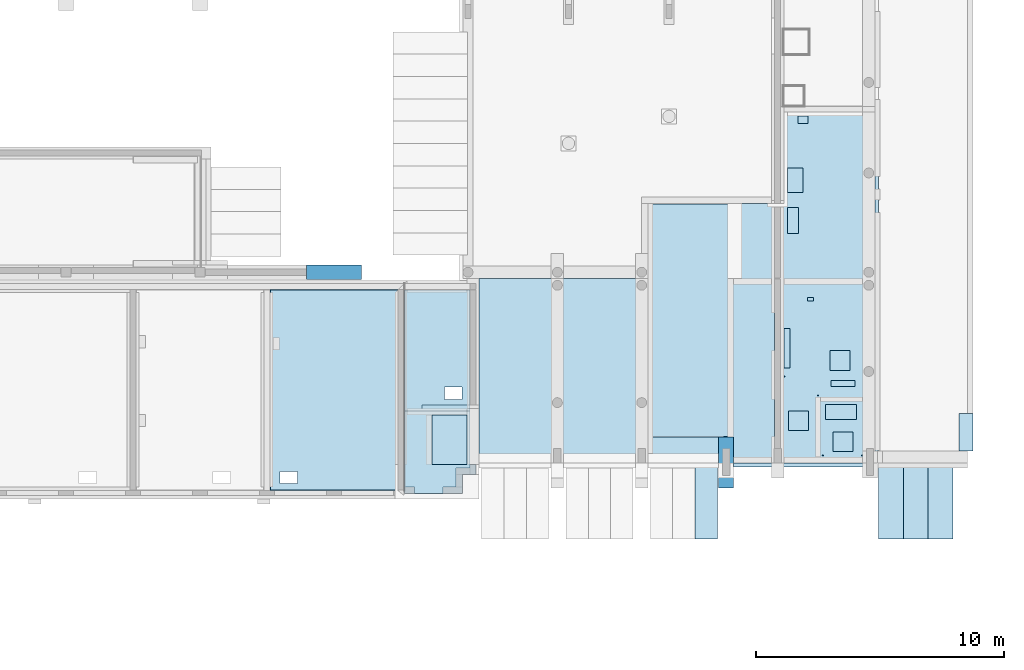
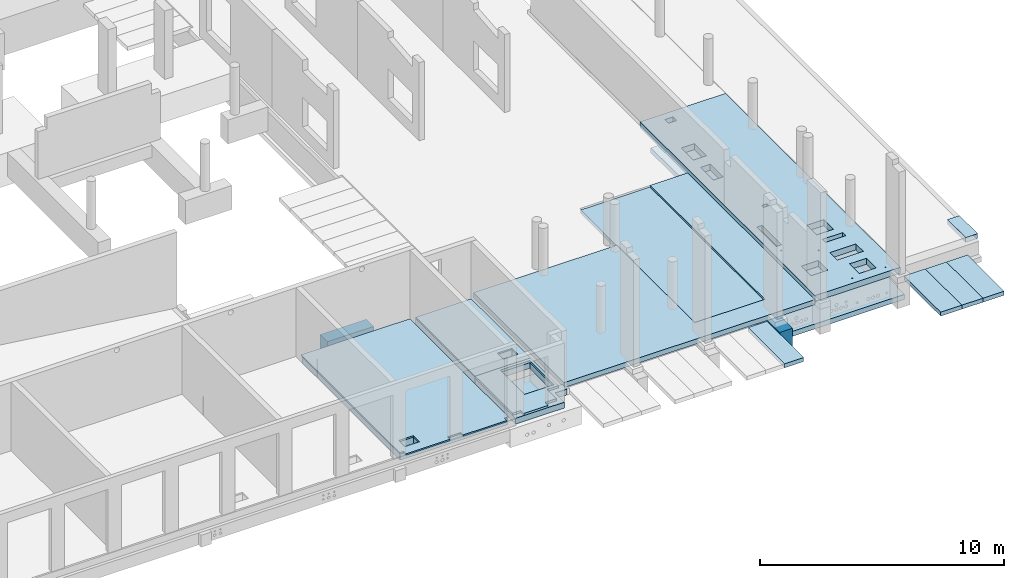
# One storey, part 29 of 60: 18 slabs, 50 openings.
"""IFC2X3 building model written with IfcOpenShell, lengths in millimetres."""

from ifc_helpers import new_model, entity, si_unit, converted_unit, derived_unit, direction, frame, frame_2d, origin, origin_2d_with_axis, place, context, subcontext, project, spatial, polyline, rectangle, circle, outline, extrude, material, layer, layer_set, layer_usage, element, save


model = new_model("IFC2X3")

# Units and contexts
model_context = context("Model", 3, precision=0.01, world=origin(), true_north=direction((6.12303176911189e-17, 1.0)))
body_context = subcontext(model_context, "Body", "Model", "MODEL_VIEW")
ifc_project = project(units=[si_unit("LENGTHUNIT", "METRE", prefix="MILLI"), si_unit("AREAUNIT", "SQUARE_METRE"), si_unit("VOLUMEUNIT", "CUBIC_METRE"), converted_unit("PLANEANGLEUNIT", "DEGREE", entity("IfcRatioMeasure", 0.0174532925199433), si_unit("PLANEANGLEUNIT", "RADIAN"), dimensions=[0, 0, 0, 0, 0, 0, 0]), si_unit("MASSUNIT", "GRAM", prefix="KILO"), derived_unit("MASSDENSITYUNIT", [(si_unit("MASSUNIT", "GRAM", prefix="KILO"), 1), (si_unit("LENGTHUNIT", "METRE"), -3)]), si_unit("TIMEUNIT", "SECOND"), si_unit("FREQUENCYUNIT", "HERTZ"), si_unit("THERMODYNAMICTEMPERATUREUNIT", "DEGREE_CELSIUS"), derived_unit("THERMALTRANSMITTANCEUNIT", [(si_unit("MASSUNIT", "GRAM", prefix="KILO"), 1), (si_unit("THERMODYNAMICTEMPERATUREUNIT", "KELVIN"), -1), (si_unit("TIMEUNIT", "SECOND"), -3)]), derived_unit("VOLUMETRICFLOWRATEUNIT", [(si_unit("LENGTHUNIT", "METRE"), 3), (si_unit("TIMEUNIT", "SECOND"), -1)]), si_unit("ELECTRICCURRENTUNIT", "AMPERE"), si_unit("ELECTRICVOLTAGEUNIT", "VOLT"), si_unit("POWERUNIT", "WATT"), si_unit("FORCEUNIT", "NEWTON", prefix="KILO"), si_unit("ILLUMINANCEUNIT", "LUX"), si_unit("LUMINOUSFLUXUNIT", "LUMEN"), si_unit("LUMINOUSINTENSITYUNIT", "CANDELA"), derived_unit("USERDEFINED", [(si_unit("MASSUNIT", "GRAM", prefix="KILO"), -1), (si_unit("LENGTHUNIT", "METRE"), -2), (si_unit("TIMEUNIT", "SECOND"), 3), (si_unit("LUMINOUSFLUXUNIT", "LUMEN"), 1)]), derived_unit("LINEARVELOCITYUNIT", [(si_unit("LENGTHUNIT", "METRE"), 1), (si_unit("TIMEUNIT", "SECOND"), -1)]), si_unit("PRESSUREUNIT", "PASCAL"), derived_unit("USERDEFINED", [(si_unit("LENGTHUNIT", "METRE"), -2), (si_unit("MASSUNIT", "GRAM", prefix="KILO"), 1), (si_unit("TIMEUNIT", "SECOND"), -2)])], contexts=[model_context])

# Site, building, storey
site_placement = place(None, origin())
site = spatial("IfcSite", under=ifc_project, at=site_placement, Name="Default", CompositionType="ELEMENT")
building_placement = place(site_placement, origin())
building = spatial("IfcBuilding", under=site, at=building_placement, Name="niet gebruiken", CompositionType="ELEMENT")
storey_placement = place(building_placement, origin())
storey = spatial("IfcBuildingStorey", under=building, at=storey_placement, Name="00 begane grond", CompositionType="ELEMENT", Elevation=0.0)

# Slab, openings
ifc_material_1 = material(Name="NLRS_f2_beton ihwg")
ifc_layer_1 = layer(ifc_material_1, 70.0)
ifc_layer_set_1 = layer_set([ifc_layer_1], Name="Floor:NLRS_23.21_FL_druklaag d=70_gen")
ifc_layer_usage_1 = layer_usage(ifc_layer_set_1, "AXIS3", "POSITIVE", 0.0)
slab_1_placement = place(storey_placement, frame((2800.0, 200.0, -160.0)))
slab_1 = element("IfcSlab", 1, at=slab_1_placement, inside=storey, material=ifc_layer_usage_1, Name="Floor:NLRS_23.21_FL_druklaag d=70_gen:2", ObjectType="Floor:NLRS_23.21_FL_druklaag d=70_gen", PredefinedType="FLOOR", context=body_context, shape_type="SweptSolid", body=[
    extrude(outline(polyline([(-41887.4999999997, 4148.0), (-47037.4999999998, 4148.0), (-47037.4999999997, -3948.0), (-46852.4999999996, -3948.0), (-46852.4999999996, -4148.0), (-44772.4999999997, -4148.0), (-44772.4999999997, -3948.0), (-44152.4999999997, -3948.0), (-44152.4999999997, -4148.0), (-42072.4999999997, -4148.0), (-42072.4999999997, -3948.0), (-41887.4999999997, -3948.0), (-41887.4999999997, 4148.0)])), frame((49937.5, 4148.0, 70.0), z_axis=(0.0, 0.0, -1.0), x_axis=(-1.0, 0.0, 0.0)), (0.0, 0.0, 1.0), 70.0),
])
placement_1 = place(storey_placement, frame((2800.0, 200.0, -160.0)))
placement_2 = place(placement_1, origin())
element("IfcOpeningElement", 2, at=placement_2, cuts=slab_1, ObjectType="Opening", context=body_context, shape_type="SweptSolid", body=[
    extrude(rectangle(XDim=699.999999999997, YDim=500.000000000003, at=origin_2d_with_axis()), frame((89870.0, 725.0, -380.0), z_axis=(0.0, 0.0, 1.0), x_axis=(-1.0, 0.0, 0.0)), (0.0, 0.0, 1.0), 450.0),
])
placement_3 = place(placement_1, origin())
element("IfcOpeningElement", 3, at=placement_3, cuts=slab_1, ObjectType="Opening", context=body_context, shape_type="SweptSolid", body=[
    extrude(rectangle(XDim=699.999999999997, YDim=500.000000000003, at=origin_2d_with_axis()), frame((92570.0, 725.0, -380.0), z_axis=(0.0, 0.0, 1.0), x_axis=(-1.0, 0.0, 0.0)), (0.0, 0.0, 1.0), 450.0),
])
placement_4 = place(placement_1, origin())
element("IfcOpeningElement", 4, at=placement_4, cuts=slab_1, ObjectType="Opening", context=body_context, shape_type="SweptSolid", body=[
    extrude(rectangle(XDim=699.999999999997, YDim=500.000000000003, at=origin_2d_with_axis()), frame((84470.0, 725.0, -380.0), z_axis=(0.0, 0.0, 1.0), x_axis=(-1.0, 0.0, 0.0)), (0.0, 0.0, 1.0), 450.0),
])
placement_5 = place(placement_1, origin())
element("IfcOpeningElement", 5, at=placement_5, cuts=slab_1, ObjectType="Opening", context=body_context, shape_type="SweptSolid", body=[
    extrude(rectangle(XDim=700.000000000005, YDim=500.000000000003, at=origin_2d_with_axis()), frame((70970.0, 725.0, -380.0), z_axis=(0.0, 0.0, 1.0), x_axis=(-1.0, 0.0, 0.0)), (0.0, 0.0, 1.0), 450.0),
])
placement_6 = place(placement_1, origin())
element("IfcOpeningElement", 6, at=placement_6, cuts=slab_1, ObjectType="Opening", context=body_context, shape_type="SweptSolid", body=[
    extrude(rectangle(XDim=700.000000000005, YDim=500.000000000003, at=origin_2d_with_axis()), frame((65570.0, 725.0, -380.0), z_axis=(0.0, 0.0, 1.0), x_axis=(-1.0, 0.0, 0.0)), (0.0, 0.0, 1.0), 450.0),
])
placement_7 = place(placement_1, origin())
element("IfcOpeningElement", 7, at=placement_7, cuts=slab_1, ObjectType="Opening", context=body_context, shape_type="SweptSolid", body=[
    extrude(rectangle(XDim=700.000000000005, YDim=500.000000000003, at=origin_2d_with_axis()), frame((62870.0, 725.0, -380.0), z_axis=(0.0, 0.0, 1.0), x_axis=(-1.0, 0.0, 0.0)), (0.0, 0.0, 1.0), 450.0),
])
placement_8 = place(placement_1, origin())
element("IfcOpeningElement", 8, at=placement_8, cuts=slab_1, ObjectType="Opening", context=body_context, shape_type="SweptSolid", body=[
    extrude(rectangle(XDim=700.000000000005, YDim=500.000000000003, at=origin_2d_with_axis()), frame((57470.0, 725.0, -380.0), z_axis=(0.0, 0.0, 1.0), x_axis=(-1.0, 0.0, 0.0)), (0.0, 0.0, 1.0), 450.0),
])
placement_9 = place(placement_1, origin())
element("IfcOpeningElement", 9, at=placement_9, cuts=slab_1, ObjectType="Opening", context=body_context, shape_type="SweptSolid", body=[
    extrude(rectangle(XDim=700.000000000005, YDim=500.000000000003, at=origin_2d_with_axis()), frame((43970.0, 725.0, -380.0), z_axis=(0.0, 0.0, 1.0), x_axis=(-1.0, 0.0, 0.0)), (0.0, 0.0, 1.0), 450.0),
])
placement_10 = place(placement_1, origin())
element("IfcOpeningElement", 10, at=placement_10, cuts=slab_1, ObjectType="Opening", context=body_context, shape_type="SweptSolid", body=[
    extrude(rectangle(XDim=700.000000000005, YDim=500.000000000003, at=origin_2d_with_axis()), frame((38570.0, 725.0, -380.0), z_axis=(0.0, 0.0, 1.0), x_axis=(-1.0, 0.0, 0.0)), (0.0, 0.0, 1.0), 450.0),
])
placement_11 = place(placement_1, origin())
element("IfcOpeningElement", 11, at=placement_11, cuts=slab_1, ObjectType="Opening", context=body_context, shape_type="SweptSolid", body=[
    extrude(rectangle(XDim=700.000000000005, YDim=500.000000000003, at=origin_2d_with_axis()), frame((35870.0, 725.0, -380.0), z_axis=(0.0, 0.0, 1.0), x_axis=(-1.0, 0.0, 0.0)), (0.0, 0.0, 1.0), 450.0),
])
placement_12 = place(placement_1, origin())
element("IfcOpeningElement", 12, at=placement_12, cuts=slab_1, ObjectType="Opening", context=body_context, shape_type="SweptSolid", body=[
    extrude(rectangle(XDim=700.000000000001, YDim=500.000000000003, at=origin_2d_with_axis()), frame((30470.0, 725.0, -380.0), z_axis=(0.0, 0.0, 1.0), x_axis=(-1.0, 0.0, 0.0)), (0.0, 0.0, 1.0), 450.0),
])
placement_13 = place(placement_1, origin())
element("IfcOpeningElement", 13, at=placement_13, cuts=slab_1, ObjectType="Opening", context=body_context, shape_type="SweptSolid", body=[
    extrude(rectangle(XDim=700.000000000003, YDim=500.000000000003, at=origin_2d_with_axis()), frame((16970.0, 725.0, -380.0), z_axis=(0.0, 0.0, 1.0), x_axis=(-1.0, 0.0, 0.0)), (0.0, 0.0, 1.0), 450.0),
])
placement_14 = place(placement_1, origin())
element("IfcOpeningElement", 14, at=placement_14, cuts=slab_1, ObjectType="Opening", context=body_context, shape_type="SweptSolid", body=[
    extrude(rectangle(XDim=700.000000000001, YDim=500.000000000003, at=origin_2d_with_axis()), frame((11570.0, 725.0, -380.0), z_axis=(0.0, 0.0, 1.0), x_axis=(-1.0, 0.0, 0.0)), (0.0, 0.0, 1.0), 450.0),
])
placement_15 = place(placement_1, origin())
element("IfcOpeningElement", 15, at=placement_15, cuts=slab_1, ObjectType="Opening", context=body_context, shape_type="SweptSolid", body=[
    extrude(rectangle(XDim=700.000000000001, YDim=500.000000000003, at=origin_2d_with_axis()), frame((8870.0, 725.0, -380.0), z_axis=(0.0, 0.0, 1.0), x_axis=(-1.0, 0.0, 0.0)), (0.0, 0.0, 1.0), 450.0),
])
placement_16 = place(placement_1, origin())
element("IfcOpeningElement", 16, at=placement_16, cuts=slab_1, ObjectType="Opening", context=body_context, shape_type="SweptSolid", body=[
    extrude(rectangle(XDim=700.000000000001, YDim=500.000000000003, at=origin_2d_with_axis()), frame((3470.0, 725.0, -380.0), z_axis=(0.0, 0.0, 1.0), x_axis=(-1.0, 0.0, 0.0)), (0.0, 0.0, 1.0), 450.0),
])
placement_17 = place(placement_1, origin())
element("IfcOpeningElement", 17, at=placement_17, cuts=slab_1, ObjectType="Opening", context=body_context, shape_type="SweptSolid", body=[
    extrude(rectangle(XDim=699.999999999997, YDim=500.000000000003, at=origin_2d_with_axis()), frame((99205.001708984, 4120.00003051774, -380.0), z_axis=(0.0, 0.0, 1.0), x_axis=(-1.0, 0.0, 0.0)), (0.0, 0.0, 1.0), 450.0),
])

slab_2_placement = place(storey_placement, frame((2800.0, 200.0, -160.0)))
slab_2 = element("IfcSlab", 18, at=slab_2_placement, inside=storey, material=ifc_layer_usage_1, Name="Floor:NLRS_23.21_FL_druklaag d=70_gen:16", ObjectType="Floor:NLRS_23.21_FL_druklaag d=70_gen", PredefinedType="FLOOR", context=body_context, shape_type="SweptSolid", body=[
    extrude(rectangle(XDim=2630.00015424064, YDim=4881.0000000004, at=frame_2d((-48622.4999228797, 1687.4999999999), x_axis=(-1.0, 0.0))), frame((49937.5, 4148.0, 70.0), z_axis=(0.0, 0.0, -1.0), x_axis=(-1.0, 0.0, 0.0)), (0.0, 0.0, 1.0), 70.0),
])
element("IfcOpeningElement", 19, at=placement_2, cuts=slab_2, ObjectType="Opening", context=body_context, shape_type="SweptSolid", body=[
    extrude(rectangle(XDim=699.999999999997, YDim=500.000000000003, at=origin_2d_with_axis()), frame((89870.0, 725.0, -380.0), z_axis=(0.0, 0.0, 1.0), x_axis=(-1.0, 0.0, 0.0)), (0.0, 0.0, 1.0), 450.0),
])
element("IfcOpeningElement", 20, at=placement_3, cuts=slab_2, ObjectType="Opening", context=body_context, shape_type="SweptSolid", body=[
    extrude(rectangle(XDim=699.999999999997, YDim=500.000000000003, at=origin_2d_with_axis()), frame((92570.0, 725.0, -380.0), z_axis=(0.0, 0.0, 1.0), x_axis=(-1.0, 0.0, 0.0)), (0.0, 0.0, 1.0), 450.0),
])
element("IfcOpeningElement", 21, at=placement_4, cuts=slab_2, ObjectType="Opening", context=body_context, shape_type="SweptSolid", body=[
    extrude(rectangle(XDim=699.999999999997, YDim=500.000000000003, at=origin_2d_with_axis()), frame((84470.0, 725.0, -380.0), z_axis=(0.0, 0.0, 1.0), x_axis=(-1.0, 0.0, 0.0)), (0.0, 0.0, 1.0), 450.0),
])
element("IfcOpeningElement", 22, at=placement_5, cuts=slab_2, ObjectType="Opening", context=body_context, shape_type="SweptSolid", body=[
    extrude(rectangle(XDim=700.000000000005, YDim=500.000000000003, at=origin_2d_with_axis()), frame((70970.0, 725.0, -380.0), z_axis=(0.0, 0.0, 1.0), x_axis=(-1.0, 0.0, 0.0)), (0.0, 0.0, 1.0), 450.0),
])
element("IfcOpeningElement", 23, at=placement_6, cuts=slab_2, ObjectType="Opening", context=body_context, shape_type="SweptSolid", body=[
    extrude(rectangle(XDim=700.000000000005, YDim=500.000000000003, at=origin_2d_with_axis()), frame((65570.0, 725.0, -380.0), z_axis=(0.0, 0.0, 1.0), x_axis=(-1.0, 0.0, 0.0)), (0.0, 0.0, 1.0), 450.0),
])
element("IfcOpeningElement", 24, at=placement_7, cuts=slab_2, ObjectType="Opening", context=body_context, shape_type="SweptSolid", body=[
    extrude(rectangle(XDim=700.000000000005, YDim=500.000000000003, at=origin_2d_with_axis()), frame((62870.0, 725.0, -380.0), z_axis=(0.0, 0.0, 1.0), x_axis=(-1.0, 0.0, 0.0)), (0.0, 0.0, 1.0), 450.0),
])
element("IfcOpeningElement", 25, at=placement_8, cuts=slab_2, ObjectType="Opening", context=body_context, shape_type="SweptSolid", body=[
    extrude(rectangle(XDim=700.000000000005, YDim=500.000000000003, at=origin_2d_with_axis()), frame((57470.0, 725.0, -380.0), z_axis=(0.0, 0.0, 1.0), x_axis=(-1.0, 0.0, 0.0)), (0.0, 0.0, 1.0), 450.0),
])
element("IfcOpeningElement", 26, at=placement_9, cuts=slab_2, ObjectType="Opening", context=body_context, shape_type="SweptSolid", body=[
    extrude(rectangle(XDim=700.000000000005, YDim=500.000000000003, at=origin_2d_with_axis()), frame((43970.0, 725.0, -380.0), z_axis=(0.0, 0.0, 1.0), x_axis=(-1.0, 0.0, 0.0)), (0.0, 0.0, 1.0), 450.0),
])
element("IfcOpeningElement", 27, at=placement_10, cuts=slab_2, ObjectType="Opening", context=body_context, shape_type="SweptSolid", body=[
    extrude(rectangle(XDim=700.000000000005, YDim=500.000000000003, at=origin_2d_with_axis()), frame((38570.0, 725.0, -380.0), z_axis=(0.0, 0.0, 1.0), x_axis=(-1.0, 0.0, 0.0)), (0.0, 0.0, 1.0), 450.0),
])
element("IfcOpeningElement", 28, at=placement_11, cuts=slab_2, ObjectType="Opening", context=body_context, shape_type="SweptSolid", body=[
    extrude(rectangle(XDim=700.000000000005, YDim=500.000000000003, at=origin_2d_with_axis()), frame((35870.0, 725.0, -380.0), z_axis=(0.0, 0.0, 1.0), x_axis=(-1.0, 0.0, 0.0)), (0.0, 0.0, 1.0), 450.0),
])
element("IfcOpeningElement", 29, at=placement_12, cuts=slab_2, ObjectType="Opening", context=body_context, shape_type="SweptSolid", body=[
    extrude(rectangle(XDim=700.000000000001, YDim=500.000000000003, at=origin_2d_with_axis()), frame((30470.0, 725.0, -380.0), z_axis=(0.0, 0.0, 1.0), x_axis=(-1.0, 0.0, 0.0)), (0.0, 0.0, 1.0), 450.0),
])
element("IfcOpeningElement", 30, at=placement_13, cuts=slab_2, ObjectType="Opening", context=body_context, shape_type="SweptSolid", body=[
    extrude(rectangle(XDim=700.000000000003, YDim=500.000000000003, at=origin_2d_with_axis()), frame((16970.0, 725.0, -380.0), z_axis=(0.0, 0.0, 1.0), x_axis=(-1.0, 0.0, 0.0)), (0.0, 0.0, 1.0), 450.0),
])
element("IfcOpeningElement", 31, at=placement_14, cuts=slab_2, ObjectType="Opening", context=body_context, shape_type="SweptSolid", body=[
    extrude(rectangle(XDim=700.000000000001, YDim=500.000000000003, at=origin_2d_with_axis()), frame((11570.0, 725.0, -380.0), z_axis=(0.0, 0.0, 1.0), x_axis=(-1.0, 0.0, 0.0)), (0.0, 0.0, 1.0), 450.0),
])
element("IfcOpeningElement", 32, at=placement_15, cuts=slab_2, ObjectType="Opening", context=body_context, shape_type="SweptSolid", body=[
    extrude(rectangle(XDim=700.000000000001, YDim=500.000000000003, at=origin_2d_with_axis()), frame((8870.0, 725.0, -380.0), z_axis=(0.0, 0.0, 1.0), x_axis=(-1.0, 0.0, 0.0)), (0.0, 0.0, 1.0), 450.0),
])
element("IfcOpeningElement", 33, at=placement_16, cuts=slab_2, ObjectType="Opening", context=body_context, shape_type="SweptSolid", body=[
    extrude(rectangle(XDim=700.000000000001, YDim=500.000000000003, at=origin_2d_with_axis()), frame((3470.0, 725.0, -380.0), z_axis=(0.0, 0.0, 1.0), x_axis=(-1.0, 0.0, 0.0)), (0.0, 0.0, 1.0), 450.0),
])
element("IfcOpeningElement", 34, at=placement_17, cuts=slab_2, ObjectType="Opening", context=body_context, shape_type="SweptSolid", body=[
    extrude(rectangle(XDim=699.999999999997, YDim=500.000000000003, at=origin_2d_with_axis()), frame((99205.001708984, 4120.00003051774, -380.0), z_axis=(0.0, 0.0, 1.0), x_axis=(-1.0, 0.0, 0.0)), (0.0, 0.0, 1.0), 450.0),
])

# Slab, opening
ifc_material_2 = material(Name="NLRS_f2_beton prefab")
ifc_layer_2 = layer(ifc_material_2, 200.0)
ifc_material_3 = material(Name="NLRS_n7_isolatie EPS")
ifc_layer_3 = layer(ifc_material_3, 132.0)
ifc_layer_set_2 = layer_set([ifc_layer_2, ifc_layer_3], Name="Floor:NLRS_23.21_FL_geisoleerde kanaalplaat d=200 rc 3.5 iso132_gen")
ifc_layer_usage_2 = layer_usage(ifc_layer_set_2, "AXIS3", "POSITIVE", 0.0)
slab_3_placement = place(storey_placement, frame((94645.0, 420.0, -492.0)))
slab_3 = element("IfcSlab", 35, at=slab_3_placement, inside=storey, material=ifc_layer_usage_2, Name="Floor:NLRS_23.21_FL_geisoleerde kanaalplaat d=200 rc 3.5 iso132_gen", ObjectType="Floor:NLRS_23.21_FL_geisoleerde kanaalplaat d=200 rc 3.5 iso132_gen", PredefinedType="FLOOR", context=body_context, shape_type="SweptSolid", body=[
    extrude(rectangle(XDim=8055.99999999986, YDim=5110.0, at=frame_2d((0.0, 0.0), x_axis=(0.0, -1.0))), frame((2555.0, 4028.0, 332.0), z_axis=(0.0, 0.0, -1.0), x_axis=(-1.0, 0.0, 0.0)), (0.0, 0.0, 1.0), 332.0),
])
opening_33_placement = place(slab_3_placement, origin())
element("IfcOpeningElement", 36, at=opening_33_placement, cuts=slab_3, ObjectType="Opening", context=body_context, shape_type="SweptSolid", body=[
    extrude(rectangle(XDim=699.999999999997, YDim=500.000000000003, at=origin_2d_with_axis()), frame((725.0, 505.0, -48.0), z_axis=(0.0, 0.0, 1.0), x_axis=(-1.0, 0.0, 0.0)), (0.0, 0.0, 1.0), 450.0),
])

# Slabs
slab_4_placement = place(storey_placement, origin())
element("IfcSlab", 37, at=slab_4_placement, inside=storey, material=ifc_material_1, Name="NLRS_16.13_SFO_LB_fundatiepoer_gen:600x2200x1200", ObjectType="NLRS_16.13_SFO_LB_fundatiepoer_gen:600x2200x1200", PredefinedType="BASESLAB", context=body_context, shape_type="SweptSolid", body=[
    extrude(rectangle(XDim=2200.0, YDim=600.0, at=frame_2d((8.64019966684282e-12, 0.0), x_axis=(1.0, 0.0))), frame((97200.0, 9196.0, -1400.0), z_axis=(0.0, 0.0, 1.0), x_axis=(-1.0, 0.0, 0.0)), (0.0, 0.0, 1.0), 1200.0),
])
ifc_layer_4 = layer(ifc_material_2, 200.0)
ifc_layer_set_3 = layer_set([ifc_layer_4], Name="Floor:NLRS_13.22_FL_beton prefab d=200_gen")
ifc_layer_usage_3 = layer_usage(ifc_layer_set_3, "AXIS3", "POSITIVE", 0.0)
slab_5_placement = place(storey_placement, origin())
element("IfcSlab", 38, at=slab_5_placement, inside=storey, material=ifc_layer_usage_3, Name="Floor:NLRS_13.22_FL_beton prefab d=200_gen", ObjectType="Floor:NLRS_13.22_FL_beton prefab d=200_gen", PredefinedType="FLOOR", context=body_context, shape_type="SweptSolid", body=[
    extrude(rectangle(XDim=3000.0, YDim=900.000000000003, at=origin_2d_with_axis()), frame((112200.000370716, -50.0, -450.0), z_axis=(0.0, 0.0, -1.0), x_axis=(0.0, 1.0, 0.0)), (0.0, 0.0, 1.0), 200.0),
])
ifc_layer_usage_4 = layer_usage(ifc_layer_set_3, "AXIS3", "POSITIVE", 0.0)
slab_6_placement = place(storey_placement, origin())
element("IfcSlab", 39, at=slab_6_placement, inside=storey, material=ifc_layer_usage_4, Name="Floor:NLRS_13.22_FL_beton prefab d=200_gen", ObjectType="Floor:NLRS_13.22_FL_beton prefab d=200_gen", PredefinedType="FLOOR", context=body_context, shape_type="SweptSolid", body=[
    extrude(rectangle(XDim=3000.0, YDim=999.999999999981, at=frame_2d((-2.27373675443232e-13, 0.0), x_axis=(1.0, 0.0))), frame((119645.000813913, -50.0, -450.0), z_axis=(0.0, 0.0, -1.0), x_axis=(0.0, 1.0, 0.0)), (0.0, 0.0, 1.0), 200.0),
])
ifc_layer_usage_5 = layer_usage(ifc_layer_set_3, "AXIS3", "POSITIVE", 0.0)
slab_7_placement = place(storey_placement, origin())
element("IfcSlab", 40, at=slab_7_placement, inside=storey, material=ifc_layer_usage_5, Name="Floor:NLRS_13.22_FL_beton prefab d=200_gen", ObjectType="Floor:NLRS_13.22_FL_beton prefab d=200_gen", PredefinedType="FLOOR", context=body_context, shape_type="SweptSolid", body=[
    extrude(rectangle(XDim=3000.0, YDim=999.999999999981, at=origin_2d_with_axis()), frame((120645.000813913, -50.0, -450.0), z_axis=(0.0, 0.0, -1.0), x_axis=(0.0, 1.0, 0.0)), (0.0, 0.0, 1.0), 200.0),
])
ifc_layer_usage_6 = layer_usage(ifc_layer_set_3, "AXIS3", "POSITIVE", 0.0)
slab_8_placement = place(storey_placement, origin())
element("IfcSlab", 41, at=slab_8_placement, inside=storey, material=ifc_layer_usage_6, Name="Floor:NLRS_13.22_FL_beton prefab d=200_gen", ObjectType="Floor:NLRS_13.22_FL_beton prefab d=200_gen", PredefinedType="FLOOR", context=body_context, shape_type="SweptSolid", body=[
    extrude(rectangle(XDim=3000.0, YDim=999.999999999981, at=origin_2d_with_axis()), frame((121645.000813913, -50.0, -450.0), z_axis=(0.0, 0.0, -1.0), x_axis=(0.0, 1.0, 0.0)), (0.0, 0.0, 1.0), 200.0),
])
ifc_layer_5 = layer(ifc_material_1, 250.0)
ifc_layer_set_4 = layer_set([ifc_layer_5], Name="Floor:NLRS_13.22_FL_beton ihwg d=250_gen")
ifc_layer_usage_7 = layer_usage(ifc_layer_set_4, "AXIS3", "POSITIVE", 0.0)
slab_9_placement = place(storey_placement, origin())
element("IfcSlab", 42, at=slab_9_placement, inside=storey, material=ifc_layer_usage_7, Name="Floor:NLRS_13.22_FL_beton ihwg d=250_gen", ObjectType="Floor:NLRS_13.22_FL_beton ihwg d=250_gen", PredefinedType="BASESLAB", context=body_context, shape_type="SweptSolid", body=[
    extrude(outline(polyline([(-4552.16666666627, -2841.66641952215), (1993.83333333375, -2841.66641952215), (1993.83333333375, -1066.66679023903), (4868.83333333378, -1066.66679023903), (4868.83333333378, -416.66679023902), (8543.83333333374, -416.66679023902), (8543.83333333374, 3408.33320976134), (-5102.16666666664, 3408.33320976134), (-5102.16666666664, 3358.33320976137), (-5752.16666666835, 3358.33320976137), (-5752.16666666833, -2441.66641952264), (-4552.16666666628, -2441.66641952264), (-4552.16666666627, -2841.66641952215)])), frame((115741.666790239, 7102.16666666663, -1300.0), z_axis=(0.0, 0.0, -1.0), x_axis=(0.0, 1.0, 0.0)), (0.0, 0.0, 1.0), 250.0),
])

# Slab, openings
ifc_layer_6 = layer(ifc_material_1, 300.0)
ifc_layer_set_5 = layer_set([ifc_layer_6], Name="Floor:NLRS_13.22_FL_beton ihwg d=300_gen")
ifc_layer_usage_8 = layer_usage(ifc_layer_set_5, "AXIS3", "POSITIVE", 0.0)
slab_10_placement = place(storey_placement, frame((114950.000813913, 1500.0, -300.0)))
slab_10 = element("IfcSlab", 43, at=slab_10_placement, inside=storey, material=ifc_layer_usage_8, Name="Floor:NLRS_13.22_FL_beton ihwg d=300_gen", ObjectType="Floor:NLRS_13.22_FL_beton ihwg d=300_gen", PredefinedType="BASESLAB", context=body_context, shape_type="SweptSolid", body=[
    extrude(rectangle(XDim=14376.0000000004, YDim=4049.99918608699, at=frame_2d((0.0, 0.0), x_axis=(0.0, -1.0))), frame((2024.99959304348, 7188.0, 300.0), z_axis=(0.0, 0.0, -1.0), x_axis=(-1.0, 0.0, 0.0)), (0.0, 0.0, 1.0), 300.0),
])
opening_34_placement = place(slab_10_placement, origin())
element("IfcOpeningElement", 44, at=opening_34_placement, cuts=slab_10, ObjectType="Opening", context=body_context, shape_type="SweptSolid", body=[
    extrude(rectangle(XDim=450.000000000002, YDim=1050.0, at=origin_2d_with_axis()), frame((750.440261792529, 9777.0, 0.0), z_axis=(0.0, 0.0, 1.0), x_axis=(-1.0, 0.0, 0.0)), (0.0, 0.0, 1.0), 300.0),
])
opening_35_placement = place(slab_10_placement, origin())
element("IfcOpeningElement", 45, at=opening_35_placement, cuts=slab_10, ObjectType="Opening", context=body_context, shape_type="SweptSolid", body=[
    extrude(rectangle(XDim=399.999999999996, YDim=300.000000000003, at=origin_2d_with_axis()), frame((1149.99918608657, 13846.0, 0.0)), (0.0, 0.0, 1.0), 300.0),
])
opening_36_placement = place(slab_10_placement, origin())
element("IfcOpeningElement", 46, at=opening_36_placement, cuts=slab_10, ObjectType="Opening", context=body_context, shape_type="SweptSolid", body=[
    extrude(rectangle(XDim=249.999999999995, YDim=1600.0, at=origin_2d_with_axis()), frame((499.99918608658, 4638.0, 0.0), z_axis=(0.0, 0.0, 1.0), x_axis=(-1.0, 0.0, 0.0)), (0.0, 0.0, 1.0), 300.0),
])
opening_37_placement = place(slab_10_placement, origin())
element("IfcOpeningElement", 47, at=opening_37_placement, cuts=slab_10, ObjectType="Opening", context=body_context, shape_type="SweptSolid", body=[
    extrude(rectangle(XDim=249.999999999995, YDim=150.000000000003, at=origin_2d_with_axis()), frame((1454.99918608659, 6603.0, 0.0), z_axis=(0.0, 0.0, 1.0), x_axis=(-1.0, 0.0, 0.0)), (0.0, 0.0, 1.0), 300.0),
])
opening_38_placement = place(slab_10_placement, origin())
element("IfcOpeningElement", 48, at=opening_38_placement, cuts=slab_10, ObjectType="Opening", context=body_context, shape_type="SweptSolid", body=[
    extrude(rectangle(XDim=800.000000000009, YDim=800.000000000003, at=origin_2d_with_axis()), frame((2635.99919660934, 4133.0, 0.0), z_axis=(0.0, 0.0, 1.0), x_axis=(-1.0, 0.0, 0.0)), (0.0, 0.0, 1.0), 300.0),
])
opening_39_placement = place(slab_10_placement, origin())
element("IfcOpeningElement", 49, at=opening_39_placement, cuts=slab_10, ObjectType="Opening", context=body_context, shape_type="SweptSolid", body=[
    extrude(rectangle(XDim=950.000000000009, YDim=250.000000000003, at=origin_2d_with_axis()), frame((2760.99919660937, 3213.0, 0.0), z_axis=(0.0, 0.0, 1.0), x_axis=(-1.0, 0.0, 0.0)), (0.0, 0.0, 1.0), 300.0),
])
opening_40_placement = place(slab_10_placement, origin())
element("IfcOpeningElement", 50, at=opening_40_placement, cuts=slab_10, ObjectType="Opening", context=body_context, shape_type="SweptSolid", body=[
    extrude(rectangle(XDim=1240.0, YDim=610.000000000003, at=origin_2d_with_axis()), frame((2680.99919660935, 2059.0, 0.0), z_axis=(0.0, 0.0, 1.0), x_axis=(-1.0, 0.0, 0.0)), (0.0, 0.0, 1.0), 300.0),
])
opening_41_placement = place(slab_10_placement, origin())
element("IfcOpeningElement", 51, at=opening_41_placement, cuts=slab_10, ObjectType="Opening", context=body_context, shape_type="SweptSolid", body=[
    extrude(rectangle(XDim=800.000000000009, YDim=800.000000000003, at=origin_2d_with_axis()), frame((973.499186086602, 1714.0, 0.0), z_axis=(0.0, 0.0, 1.0), x_axis=(-1.0, 0.0, 0.0)), (0.0, 0.0, 1.0), 300.0),
])
opening_42_placement = place(slab_10_placement, origin())
element("IfcOpeningElement", 52, at=opening_42_placement, cuts=slab_10, ObjectType="Opening", context=body_context, shape_type="SweptSolid", body=[
    extrude(rectangle(XDim=800.000000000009, YDim=800.000000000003, at=origin_2d_with_axis()), frame((2766.99917556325, 864.0, 0.0), z_axis=(0.0, 0.0, 1.0), x_axis=(-1.0, 0.0, 0.0)), (0.0, 0.0, 1.0), 300.0),
])
opening_43_placement = place(slab_10_placement, origin())
element("IfcOpeningElement", 53, at=opening_43_placement, cuts=slab_10, ObjectType="Opening", context=body_context, shape_type="SweptSolid", body=[
    extrude(circle(Radius=25.0, at=origin_2d_with_axis()), frame((404.999186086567, 3488.0, 0.0)), (0.0, 0.0, 1.0), 300.0),
])
opening_44_placement = place(slab_10_placement, origin())
element("IfcOpeningElement", 54, at=opening_44_placement, cuts=slab_10, ObjectType="Opening", context=body_context, shape_type="SweptSolid", body=[
    extrude(circle(Radius=25.0, at=origin_2d_with_axis()), frame((3524.99918608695, 314.0, 0.0)), (0.0, 0.0, 1.0), 300.0),
])
opening_45_placement = place(slab_10_placement, origin())
element("IfcOpeningElement", 55, at=opening_45_placement, cuts=slab_10, ObjectType="Opening", context=body_context, shape_type="SweptSolid", body=[
    extrude(circle(Radius=25.0, at=origin_2d_with_axis()), frame((1746.99917556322, 2728.0, 0.0)), (0.0, 0.0, 1.0), 300.0),
])
opening_46_placement = place(slab_10_placement, origin())
element("IfcOpeningElement", 56, at=opening_46_placement, cuts=slab_10, ObjectType="Opening", context=body_context, shape_type="SweptSolid", body=[
    extrude(circle(Radius=25.0, at=origin_2d_with_axis()), frame((1946.99917556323, 314.0, 0.0)), (0.0, 0.0, 1.0), 300.0),
])
opening_47_placement = place(slab_10_placement, origin())
element("IfcOpeningElement", 57, at=opening_47_placement, cuts=slab_10, ObjectType="Opening", context=body_context, shape_type="SweptSolid", body=[
    extrude(rectangle(XDim=619.999999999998, YDim=1000.0, at=origin_2d_with_axis()), frame((835.440261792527, 11402.0, 0.0), z_axis=(0.0, 0.0, 1.0), x_axis=(-1.0, 0.0, 0.0)), (0.0, 0.0, 1.0), 300.0),
])

# Slab
slab_11_placement = place(storey_placement, origin())
element("IfcSlab", 58, at=slab_11_placement, inside=storey, material=ifc_material_1, Name="NLRS_16.13_SFO_LB_fundatiepoer_gen:600x2050x1200", ObjectType="NLRS_16.13_SFO_LB_fundatiepoer_gen:600x2050x1200", PredefinedType="BASESLAB", context=body_context, shape_type="SweptSolid", body=[
    extrude(rectangle(XDim=2050.0, YDim=600.000000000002, at=origin_2d_with_axis()), frame((113000.000370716, 1525.0, -1650.0), z_axis=(0.0, 0.0, 1.0), x_axis=(0.0, -1.0, 0.0)), (0.0, 0.0, 1.0), 1200.0),
])

# Slab, opening
ifc_layer_usage_9 = layer_usage(ifc_layer_set_2, "AXIS3", "POSITIVE", 0.0)
slab_12_placement = place(storey_placement, frame((100045.0, 3595.0, -492.0)))
slab_12 = element("IfcSlab", 59, at=slab_12_placement, inside=storey, material=ifc_layer_usage_9, Name="Floor:NLRS_23.21_FL_geisoleerde kanaalplaat d=200 rc 3.5 iso132_gen", ObjectType="Floor:NLRS_23.21_FL_geisoleerde kanaalplaat d=200 rc 3.5 iso132_gen", PredefinedType="FLOOR", context=body_context, shape_type="SweptSolid", body=[
    extrude(rectangle(XDim=4881.00000000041, YDim=2610.00015424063, at=frame_2d((0.0, 0.0), x_axis=(0.0, 1.0))), frame((1305.0000771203, 2440.5000000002, 332.0), z_axis=(0.0, 0.0, -1.0), x_axis=(-1.0, 0.0, 0.0)), (0.0, 0.0, 1.0), 332.0),
])
opening_48_placement = place(slab_12_placement, origin())
element("IfcOpeningElement", 60, at=opening_48_placement, cuts=slab_12, ObjectType="Opening", context=body_context, shape_type="SweptSolid", body=[
    extrude(rectangle(XDim=699.999999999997, YDim=500.000000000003, at=origin_2d_with_axis()), frame((1960.00186322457, 725.000030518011, -48.0), z_axis=(0.0, 0.0, 1.0), x_axis=(-1.0, 0.0, 0.0)), (0.0, 0.0, 1.0), 450.0),
])

# Slabs
ifc_layer_7 = layer(ifc_material_2, 180.0)
ifc_layer_set_6 = layer_set([ifc_layer_7], Name="Floor:NLRS_23.21_FL_beton prefab d=180_gen")
ifc_layer_usage_10 = layer_usage(ifc_layer_set_6, "AXIS3", "POSITIVE", 0.0)
slab_13_placement = place(storey_placement, origin())
element("IfcSlab", 61, at=slab_13_placement, inside=storey, material=ifc_layer_usage_10, Name="Floor:NLRS_23.21_FL_beton prefab d=180_gen", ObjectType="Floor:NLRS_23.21_FL_beton prefab d=180_gen", PredefinedType="FLOOR", context=body_context, shape_type="SweptSolid", body=[
    extrude(rectangle(XDim=9371.00000000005, YDim=3285.00000000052, at=frame_2d((9.09494701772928e-13, 0.0), x_axis=(1.0, 0.0))), frame((111512.500370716, 7265.50000000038, -265.0), z_axis=(0.0, 0.0, -1.0), x_axis=(0.0, 1.0, 0.0)), (0.0, 0.0, 1.0), 180.0),
])
ifc_layer_usage_11 = layer_usage(ifc_layer_set_4, "AXIS3", "POSITIVE", 0.0)
slab_14_placement = place(storey_placement, origin())
element("IfcSlab", 62, at=slab_14_placement, inside=storey, material=ifc_layer_usage_11, Name="Floor:NLRS_13.22_FL_beton ihwg d=250_gen", ObjectType="Floor:NLRS_13.22_FL_beton ihwg d=250_gen", PredefinedType="BASESLAB", context=body_context, shape_type="SweptSolid", body=[
    extrude(outline(polyline([(-4741.75000000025, -7206.25018535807), (2704.24999999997, -7206.25018535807), (2704.24999999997, -406.249814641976), (-3691.74999999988, -406.249814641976), (-3691.74999999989, 2918.75018535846), (5729.25000000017, 2918.75018535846), (5729.25000000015, 4693.74981464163), (-4741.75000000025, 4693.74981464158), (-4741.75000000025, -7206.25018535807)])), frame((110256.250185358, 6241.75000000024, -200.0), z_axis=(0.0, 0.0, -1.0), x_axis=(0.0, 1.0, 0.0)), (0.0, 0.0, 1.0), 250.0),
])
ifc_layer_usage_12 = layer_usage(ifc_layer_set_4, "AXIS3", "POSITIVE", 0.0)
slab_15_placement = place(storey_placement, origin())
element("IfcSlab", 63, at=slab_15_placement, inside=storey, material=ifc_layer_usage_12, Name="Floor:NLRS_13.22_FL_beton ihwg d=250_gen", ObjectType="Floor:NLRS_13.22_FL_beton ihwg d=250_gen", PredefinedType="BASESLAB", context=body_context, shape_type="SweptSolid", body=[
    extrude(rectangle(XDim=2400.00000000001, YDim=2300.0, at=origin_2d_with_axis()), frame((101900.0, 2650.0, -1150.0), z_axis=(0.0, 0.0, -1.0), x_axis=(0.0, 1.0, 0.0)), (0.0, 0.0, 1.0), 250.0),
])

# Slab, opening
ifc_layer_8 = layer(ifc_material_1, 292.0)
ifc_layer_set_7 = layer_set([ifc_layer_8], Name="Floor:NLRS_13.22_FL_beton ihwg d=292_gen")
ifc_layer_usage_13 = layer_usage(ifc_layer_set_7, "AXIS3", "POSITIVE", 0.0)
slab_16_placement = place(storey_placement, frame((100045.0, 285.0, -492.0)))
slab_16 = element("IfcSlab", 64, at=slab_16_placement, inside=storey, material=ifc_layer_usage_13, Name="Floor:NLRS_13.22_FL_beton ihwg d=292_gen", ObjectType="Floor:NLRS_13.22_FL_beton ihwg d=292_gen", PredefinedType="FLOOR", context=body_context, shape_type="SweptSolid", body=[
    extrude(outline(polyline([(-1440.0, -490.0), (-1440.0, -890.0), (-890.000278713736, -890.0), (-890.000278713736, -1655.0), (1440.0, -1655.0), (1440.0, 1655.0), (-1190.0, 1655.0), (-1190.0, -490.0), (-1440.0, -490.0)])), frame((1440.0, 1655.0, 292.0), z_axis=(0.0, 0.0, -1.0), x_axis=(-1.0, 0.0, 0.0)), (0.0, 0.0, 1.0), 292.0),
])
opening_49_placement = place(slab_16_placement, frame((1805.0, 2165.0, 292.0)))
element("IfcOpeningElement", 65, at=opening_49_placement, cuts=slab_16, Name="Floor:NLRS_13.22_FL_beton ihwg d=292_gen:2", ObjectType="Opening", context=body_context, shape_type="SweptSolid", body=[
    extrude(rectangle(XDim=1999.99999999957, YDim=1400.00000000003, at=origin_2d_with_axis()), frame((0.0, 0.0, 0.0), z_axis=(0.0, 0.0, 1.0), x_axis=(0.0, 1.0, 0.0)), (0.0, 0.0, -1.0), 292.0),
])

ifc_layer_9 = layer(ifc_material_1, 110.0)
ifc_layer_set_8 = layer_set([ifc_layer_9], Name="Floor:NLRS_23.21_FL_druklaag d=110_gen")
ifc_layer_usage_14 = layer_usage(ifc_layer_set_8, "AXIS3", "POSITIVE", 0.0)
slab_17_placement = place(storey_placement, frame((100045.0, 285.0, -200.0)))
slab_17 = element("IfcSlab", 66, at=slab_17_placement, inside=storey, material=ifc_layer_usage_14, Name="Floor:NLRS_23.21_FL_druklaag d=110_gen", ObjectType="Floor:NLRS_23.21_FL_druklaag d=110_gen", PredefinedType="FLOOR", context=body_context, shape_type="SweptSolid", body=[
    extrude(outline(polyline([(-1315.0, 1655.0), (-1315.0, -640.0), (-765.000278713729, -640.0), (-765.000278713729, -1405.0), (-229.0, -1405.0), (-229.0, -1655.0), (915.0, -1655.0), (915.0, -1405.0), (1315.0, -1405.0), (1315.0, 1655.0), (-1315.0, 1655.0)])), frame((1315.0, 1655.0, 110.0), z_axis=(0.0, 0.0, -1.0), x_axis=(-1.0, 0.0, 0.0)), (0.0, 0.0, 1.0), 110.0),
])
opening_50_placement = place(slab_17_placement, frame((1805.0, 2165.0, 110.0)))
element("IfcOpeningElement", 67, at=opening_50_placement, cuts=slab_17, Name="Floor:NLRS_23.21_FL_druklaag d=110_gen:2", ObjectType="Opening", context=body_context, shape_type="SweptSolid", body=[
    extrude(rectangle(XDim=1999.99999999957, YDim=1400.00000000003, at=origin_2d_with_axis()), frame((0.0, 0.0, 0.0), z_axis=(0.0, 0.0, -1.0), x_axis=(0.0, -1.0, 0.0)), (0.0, 0.0, 1.0), 110.0),
])

# Slab
ifc_layer_10 = layer(ifc_material_1, 245.0)
ifc_layer_set_9 = layer_set([ifc_layer_10], Name="Floor:NLRS_13.22_FL_beton ihwg d=245_gevlinderd en ingestrooid_gen")
ifc_layer_usage_15 = layer_usage(ifc_layer_set_9, "AXIS3", "POSITIVE", 0.0)
slab_18_placement = place(storey_placement, origin())
element("IfcSlab", 68, at=slab_18_placement, inside=storey, material=ifc_layer_usage_15, Name="Floor:NLRS_13.22_FL_beton ihwg d=245_gevlinderd en ingestrooid_gen", ObjectType="Floor:NLRS_13.22_FL_beton ihwg d=245_gevlinderd en ingestrooid_gen", PredefinedType="BASESLAB", context=body_context, shape_type="SweptSolid", body=[
    extrude(rectangle(XDim=1495.00000000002, YDim=570.000000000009, at=frame_2d((4.54747350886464e-13, 0.0), x_axis=(1.0, 0.0))), frame((122665.0, 2747.49999999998, 0.0), z_axis=(0.0, 0.0, -1.0), x_axis=(0.0, 1.0, 0.0)), (0.0, 0.0, 1.0), 245.0),
])

save(model, "model.ifc")
